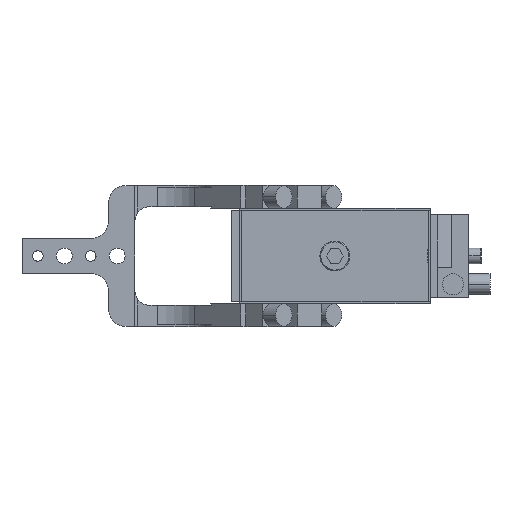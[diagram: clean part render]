
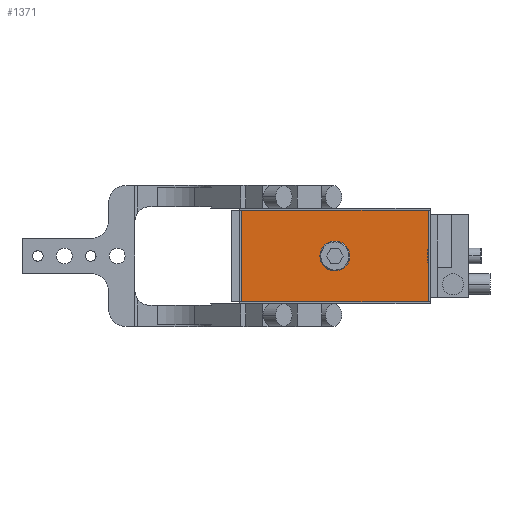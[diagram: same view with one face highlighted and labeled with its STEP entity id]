
A CAD part, left-side view. The second image highlights one B-rep face of the part: STEP entity #1371.
In plain terms, the highlighted planar face has unit normal (-1, 0, 0).
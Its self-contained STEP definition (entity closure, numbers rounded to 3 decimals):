
#42 = VERTEX_POINT ( 'NONE', #8695 ) ;
#56 = VECTOR ( 'NONE', #2148, 1000. ) ;
#256 = ORIENTED_EDGE ( 'NONE', *, *, #5896, .T. ) ;
#529 = VECTOR ( 'NONE', #1104, 1000. ) ;
#972 = FACE_BOUND ( 'NONE', #3372, .T. ) ;
#1085 = VERTEX_POINT ( 'NONE', #8862 ) ;
#1104 = DIRECTION ( 'NONE',  ( 0., 1., 0. ) ) ;
#1371 = ADVANCED_FACE ( 'NONE', ( #3697, #972 ), #3370, .T. ) ;
#1473 = DIRECTION ( 'NONE',  ( 0., -1., 0. ) ) ;
#1821 = CARTESIAN_POINT ( 'NONE',  ( -276.5, 0., 0. ) ) ;
#2148 = DIRECTION ( 'NONE',  ( 0., 0., 1. ) ) ;
#2431 = CARTESIAN_POINT ( 'NONE',  ( -276.5, -86.5, -26. ) ) ;
#2636 = ORIENTED_EDGE ( 'NONE', *, *, #9713, .T. ) ;
#3205 = VERTEX_POINT ( 'NONE', #9843 ) ;
#3359 = VECTOR ( 'NONE', #3734, 1000. ) ;
#3370 = PLANE ( 'NONE',  #3384 ) ;
#3372 = EDGE_LOOP ( 'NONE', ( #8729, #4803 ) ) ;
#3384 = AXIS2_PLACEMENT_3D ( 'NONE', #1821, #7725, #4498 ) ;
#3684 = AXIS2_PLACEMENT_3D ( 'NONE', #4259, #10134, #1473 ) ;
#3697 = FACE_OUTER_BOUND ( 'NONE', #8118, .T. ) ;
#3734 = DIRECTION ( 'NONE',  ( 0., 0., -1. ) ) ;
#3770 = CARTESIAN_POINT ( 'NONE',  ( -276.5, -33.5, 26. ) ) ;
#3772 = VECTOR ( 'NONE', #5553, 1000. ) ;
#4077 = EDGE_CURVE ( 'NONE', #1085, #10648, #8911, .T. ) ;
#4214 = EDGE_CURVE ( 'NONE', #42, #3205, #10886, .T. ) ;
#4259 = CARTESIAN_POINT ( 'NONE',  ( -276.5, -33.5, 0. ) ) ;
#4498 = DIRECTION ( 'NONE',  ( 0., 0., 1. ) ) ;
#4803 = ORIENTED_EDGE ( 'NONE', *, *, #9500, .F. ) ;
#5014 = CARTESIAN_POINT ( 'NONE',  ( -276.5, 19.5, -26. ) ) ;
#5212 = VERTEX_POINT ( 'NONE', #5014 ) ;
#5553 = DIRECTION ( 'NONE',  ( 0., -1., 0. ) ) ;
#5711 = VERTEX_POINT ( 'NONE', #2431 ) ;
#5896 = EDGE_CURVE ( 'NONE', #10648, #5212, #10634, .T. ) ;
#5941 = CARTESIAN_POINT ( 'NONE',  ( -276.5, -33.5, 0. ) ) ;
#5965 = ORIENTED_EDGE ( 'NONE', *, *, #4077, .T. ) ;
#6626 = DIRECTION ( 'NONE',  ( -1., 0., 0. ) ) ;
#6765 = ORIENTED_EDGE ( 'NONE', *, *, #7573, .T. ) ;
#7573 = EDGE_CURVE ( 'NONE', #5212, #5711, #10677, .T. ) ;
#7725 = DIRECTION ( 'NONE',  ( -1., 0., 0. ) ) ;
#8118 = EDGE_LOOP ( 'NONE', ( #6765, #2636, #5965, #256 ) ) ;
#8184 = AXIS2_PLACEMENT_3D ( 'NONE', #5941, #6626, #9185 ) ;
#8602 = CARTESIAN_POINT ( 'NONE',  ( -276.5, 19.5, 26. ) ) ;
#8695 = CARTESIAN_POINT ( 'NONE',  ( -276.5, -40.959, -4.075 ) ) ;
#8729 = ORIENTED_EDGE ( 'NONE', *, *, #4214, .F. ) ;
#8862 = CARTESIAN_POINT ( 'NONE',  ( -276.5, -86.5, 26. ) ) ;
#8863 = CARTESIAN_POINT ( 'NONE',  ( -276.5, -33.5, -26. ) ) ;
#8911 = LINE ( 'NONE', #3770, #529 ) ;
#8927 = CARTESIAN_POINT ( 'NONE',  ( -276.5, 19.5, 0. ) ) ;
#8953 = CIRCLE ( 'NONE', #3684, 8.5 ) ;
#9185 = DIRECTION ( 'NONE',  ( 0., -1., 0. ) ) ;
#9500 = EDGE_CURVE ( 'NONE', #3205, #42, #8953, .T. ) ;
#9713 = EDGE_CURVE ( 'NONE', #5711, #1085, #9894, .T. ) ;
#9843 = CARTESIAN_POINT ( 'NONE',  ( -276.5, -26.041, 4.075 ) ) ;
#9894 = LINE ( 'NONE', #10695, #56 ) ;
#10134 = DIRECTION ( 'NONE',  ( -1., 0., 0. ) ) ;
#10634 = LINE ( 'NONE', #8927, #3359 ) ;
#10648 = VERTEX_POINT ( 'NONE', #8602 ) ;
#10677 = LINE ( 'NONE', #8863, #3772 ) ;
#10695 = CARTESIAN_POINT ( 'NONE',  ( -276.5, -86.5, 0. ) ) ;
#10886 = CIRCLE ( 'NONE', #8184, 8.5 ) ;
